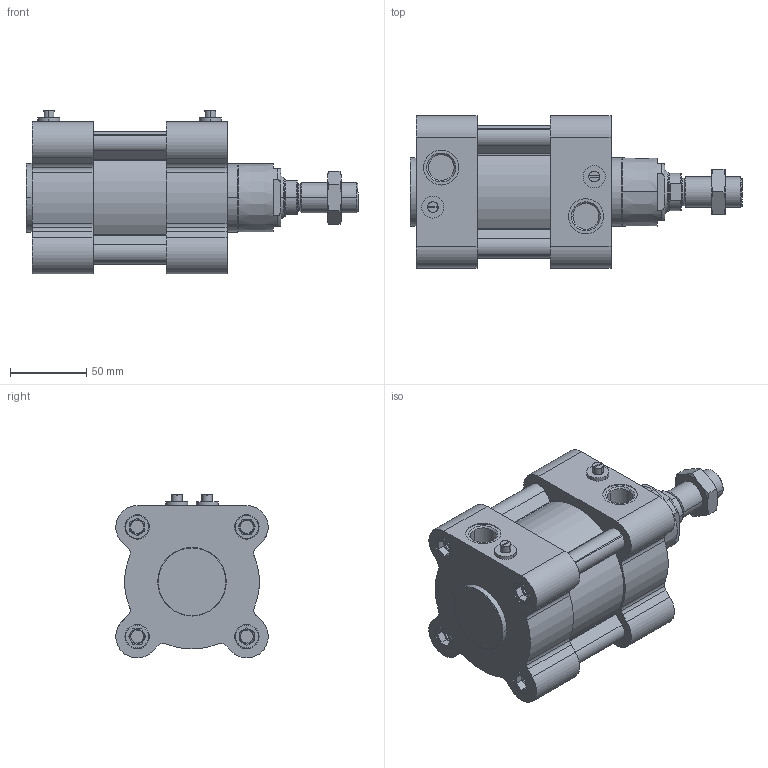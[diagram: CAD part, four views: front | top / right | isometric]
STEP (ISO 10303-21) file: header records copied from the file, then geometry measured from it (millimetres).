
FILE_DESCRIPTION(('STEP AP214'),'1');
FILE_NAME('81MVD80AJ0000.stp','2016-07-26T08:55:38',(' '),(' '),'Spatial InterOp 3D',' ',' ');
FILE_SCHEMA(('automotive_design'));
Length unit declared in the file: millimetre
Products named in the file (5): 81MVD80AJ0000; Tige; FA; TUB80VD; FP
Assembly tree (4 placements, depth 2):
  81MVD80AJ0000
    Tige
    FA
    TUB80VD
    FP
Bounding box: 218 x 99.96 x 107.46 mm (x, y, z)
Volume: 852435 mm3; surface area: 176159.1 mm2
Topology: 14 solids, 14 shells, 546 faces, 1282 edges, 800 vertices
Faces by surface type: cylinder 200, plane 170, cone 144, torus 30, offset 2
Entity records: 20488 total; most frequent: DIRECTION 2940, CARTESIAN_POINT 2931, ORIENTED_EDGE 2550, EDGE_CURVE 1275, AXIS2_PLACEMENT_3D 1168, VERTEX_POINT 800, EDGE_LOOP 629, CIRCLE 617
